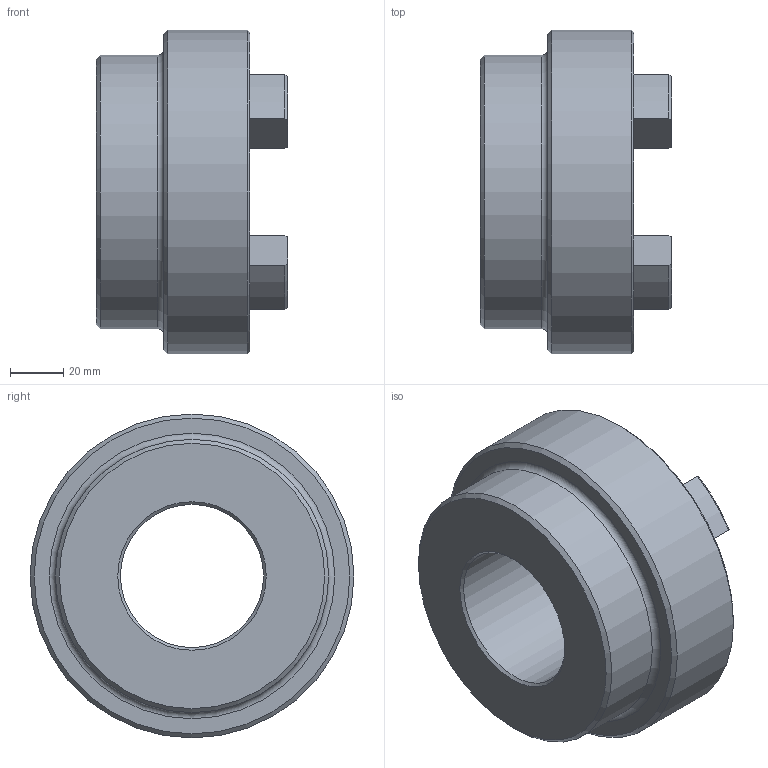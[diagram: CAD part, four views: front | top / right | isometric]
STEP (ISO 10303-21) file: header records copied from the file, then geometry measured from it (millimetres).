
FILE_DESCRIPTION (( 'STEP AP203' ), '1' );
FILE_NAME ('RC5.step', '2024-07-25T13:38:35', ( 'Adlan' ), ( '' ), 'SwSTEP 2.0', 'SolidWorks 2013', '' );
FILE_SCHEMA (( 'CONFIG_CONTROL_DESIGN' ));
Length unit declared in the file: inch
Products named in the file (1): RC5
Bounding box: 72.14 x 122.17 x 122.17 mm (x, y, z)
Volume: 385277.2 mm3; surface area: 58089 mm2
Topology: 1 solids, 1 shells, 76 faces, 189 edges, 117 vertices
Faces by surface type: cylinder 31, torus 17, plane 16, cone 12
Full cylindrical faces by diameter (mm): 53.995 x1, 103.124 x1, 122.174 x1
Entity records: 2349 total; most frequent: CARTESIAN_POINT 443, DIRECTION 416, ORIENTED_EDGE 358, EDGE_CURVE 179, AXIS2_PLACEMENT_3D 168, VERTEX_POINT 115, CIRCLE 91, EDGE_LOOP 88
